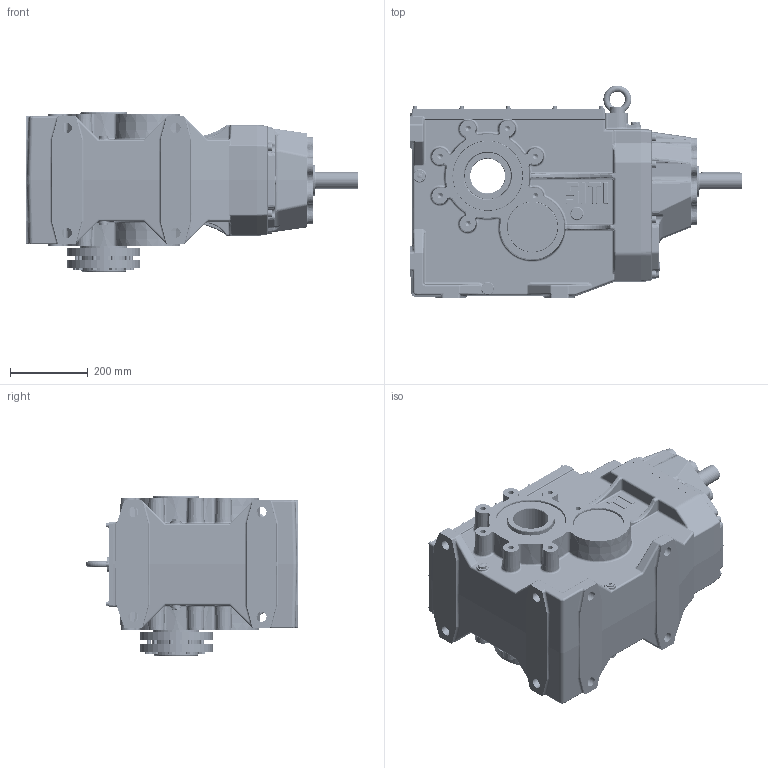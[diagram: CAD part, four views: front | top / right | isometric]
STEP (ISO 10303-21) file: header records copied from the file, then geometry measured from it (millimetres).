
FILE_DESCRIPTION((''),'2;1');
FILE_NAME('O:\Figurini\Figurini BH\3D\160\BH 160 CC-A.stp','2013-05-16T09:59:34',('d.iannaccio'),(''),'Autodesk Inventor 2012','Autodesk Inventor 2012','');
FILE_SCHEMA(('AUTOMOTIVE_DESIGN { 1 0 10303 214 1 1 1 1 }'));
Length unit declared in the file: millimetre
Products named in the file (1): BH 160 CC-A
Bounding box: 855 x 547.93 x 410 mm (x, y, z)
Volume: 24769249.3 mm3; surface area: 3459010.8 mm2
Topology: 49 solids, 51 shells, 3755 faces, 8987 edges, 5329 vertices
Faces by surface type: cylinder 1049, plane 1045, bspline 786, torus 404, cone 398, sphere 73
Full cylindrical faces by diameter (mm): 1.5 x1, 3 x2, 4.917 x12, 6 x24, 6.4 x12, 7 x12, 8.4 x1, 10 x21, 10.106 x10, 10.5 x1, 11 x20, 12 x22, 12.5 x14, 13 x8, 13.835 x14, 14.63 x9, 14.95 x8, 17.294 x3, 18 x8, 20.5 x8, 24 x1, 25 x1, 26 x9, 30 x5, 40 x1, 42 x1, 72 x1, 74.975 x2, 75.35 x1, 76.5 x1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
Entity records: 142818 total; most frequent: CARTESIAN_POINT 59267, ORIENTED_EDGE 16228, DIRECTION 16133, EDGE_CURVE 8114, AXIS2_PLACEMENT_3D 6792, VERTEX_POINT 5112, EDGE_LOOP 4538, STYLED_ITEM 3804
